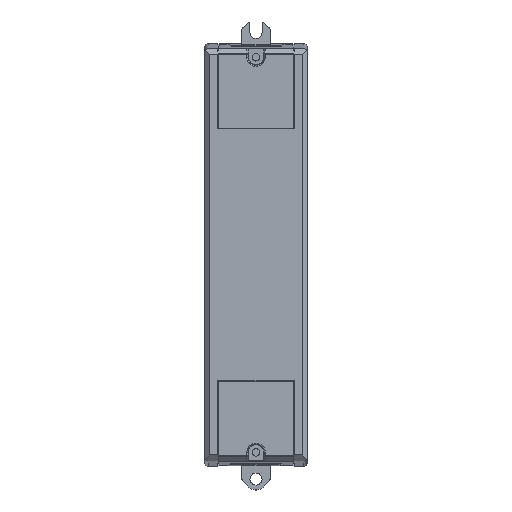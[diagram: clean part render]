
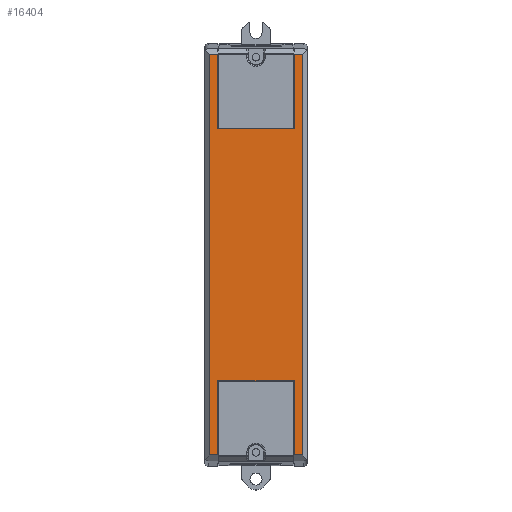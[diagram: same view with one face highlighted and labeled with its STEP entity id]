
A CAD part, top view. The second image highlights one B-rep face of the part: STEP entity #16404.
In plain terms, the highlighted planar face has unit normal (0, 0, 1).
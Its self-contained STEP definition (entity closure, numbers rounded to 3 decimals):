
#82 = LINE ( 'NONE', #22490, #13856 ) ;
#83 = EDGE_CURVE ( 'NONE', #10599, #24306, #17943, .T. ) ;
#417 = DIRECTION ( 'NONE',  ( 0., 1., 0. ) ) ;
#689 = EDGE_CURVE ( 'NONE', #12988, #10599, #23246, .T. ) ;
#895 = DIRECTION ( 'NONE',  ( 1., 0., 0. ) ) ;
#1009 = DIRECTION ( 'NONE',  ( -1., 0., 0. ) ) ;
#1263 = DIRECTION ( 'NONE',  ( 0., 1., 0. ) ) ;
#1378 = VECTOR ( 'NONE', #895, 1000. ) ;
#1482 = EDGE_CURVE ( 'NONE', #12988, #10505, #1963, .T. ) ;
#1534 = VECTOR ( 'NONE', #17731, 1000. ) ;
#1854 = VERTEX_POINT ( 'NONE', #22290 ) ;
#1963 = LINE ( 'NONE', #23390, #1378 ) ;
#2006 = ORIENTED_EDGE ( 'NONE', *, *, #19989, .T. ) ;
#2221 = EDGE_LOOP ( 'NONE', ( #16422, #18770, #14952, #7928, #18485, #10151, #2866, #2006, #8169, #11687, #5247, #14333 ) ) ;
#2290 = VERTEX_POINT ( 'NONE', #18468 ) ;
#2866 = ORIENTED_EDGE ( 'NONE', *, *, #83, .T. ) ;
#3378 = CARTESIAN_POINT ( 'NONE',  ( 7.732, -75.961, 76.867 ) ) ;
#3401 = DIRECTION ( 'NONE',  ( 0., -1., 0. ) ) ;
#3550 = CARTESIAN_POINT ( 'NONE',  ( 22.602, -125.211, 76.867 ) ) ;
#3710 = EDGE_CURVE ( 'NONE', #10505, #23001, #15038, .T. ) ;
#3861 = VECTOR ( 'NONE', #8498, 1000. ) ;
#4168 = CARTESIAN_POINT ( 'NONE',  ( 7.732, -203.482, 76.867 ) ) ;
#4606 = EDGE_CURVE ( 'NONE', #24246, #8405, #9796, .T. ) ;
#4840 = VECTOR ( 'NONE', #417, 1000. ) ;
#5247 = ORIENTED_EDGE ( 'NONE', *, *, #22212, .F. ) ;
#5325 = CARTESIAN_POINT ( 'NONE',  ( 40.672, -203.482, 76.867 ) ) ;
#5440 = DIRECTION ( 'NONE',  ( 1., 0., 0. ) ) ;
#5463 = CARTESIAN_POINT ( 'NONE',  ( 37.472, -75.961, 76.867 ) ) ;
#5831 = VECTOR ( 'NONE', #11947, 1000. ) ;
#6182 = EDGE_CURVE ( 'NONE', #2290, #23319, #8242, .T. ) ;
#6412 = CARTESIAN_POINT ( 'NONE',  ( 37.472, -203.482, 76.867 ) ) ;
#7085 = VERTEX_POINT ( 'NONE', #9946 ) ;
#7226 = DIRECTION ( 'NONE',  ( 0., -1., 0. ) ) ;
#7297 = DIRECTION ( 'NONE',  ( 0., -1., 0. ) ) ;
#7836 = FACE_OUTER_BOUND ( 'NONE', #2221, .T. ) ;
#7928 = ORIENTED_EDGE ( 'NONE', *, *, #3710, .F. ) ;
#8169 = ORIENTED_EDGE ( 'NONE', *, *, #6182, .F. ) ;
#8185 = CARTESIAN_POINT ( 'NONE',  ( 22.602, -174.461, 76.867 ) ) ;
#8242 = LINE ( 'NONE', #21626, #3861 ) ;
#8405 = VERTEX_POINT ( 'NONE', #8605 ) ;
#8498 = DIRECTION ( 'NONE',  ( 1., 0., 0. ) ) ;
#8605 = CARTESIAN_POINT ( 'NONE',  ( 7.732, -174.461, 76.867 ) ) ;
#9354 = VERTEX_POINT ( 'NONE', #6412 ) ;
#9796 = LINE ( 'NONE', #10573, #14175 ) ;
#9946 = CARTESIAN_POINT ( 'NONE',  ( 4.532, -203.482, 76.867 ) ) ;
#10151 = ORIENTED_EDGE ( 'NONE', *, *, #689, .T. ) ;
#10254 = EDGE_CURVE ( 'NONE', #8405, #1854, #10790, .T. ) ;
#10505 = VERTEX_POINT ( 'NONE', #10855 ) ;
#10573 = CARTESIAN_POINT ( 'NONE',  ( 7.732, -207.861, 76.867 ) ) ;
#10599 = VERTEX_POINT ( 'NONE', #5463 ) ;
#10790 = LINE ( 'NONE', #8185, #5831 ) ;
#10822 = PLANE ( 'NONE',  #16631 ) ;
#10855 = CARTESIAN_POINT ( 'NONE',  ( 40.672, -46.74, 76.867 ) ) ;
#11613 = CARTESIAN_POINT ( 'NONE',  ( 4.532, -125.211, 76.867 ) ) ;
#11687 = ORIENTED_EDGE ( 'NONE', *, *, #12901, .F. ) ;
#11947 = DIRECTION ( 'NONE',  ( 1., 0., 0. ) ) ;
#12901 = EDGE_CURVE ( 'NONE', #7085, #2290, #24244, .T. ) ;
#12988 = VERTEX_POINT ( 'NONE', #13747 ) ;
#13209 = VECTOR ( 'NONE', #7226, 1000. ) ;
#13747 = CARTESIAN_POINT ( 'NONE',  ( 37.472, -46.74, 76.867 ) ) ;
#13856 = VECTOR ( 'NONE', #24312, 1000. ) ;
#14017 = EDGE_CURVE ( 'NONE', #23001, #9354, #22084, .T. ) ;
#14061 = VECTOR ( 'NONE', #1009, 1000. ) ;
#14175 = VECTOR ( 'NONE', #1263, 1000. ) ;
#14333 = ORIENTED_EDGE ( 'NONE', *, *, #4606, .T. ) ;
#14450 = VECTOR ( 'NONE', #3401, 1000. ) ;
#14836 = VECTOR ( 'NONE', #7297, 1000. ) ;
#14952 = ORIENTED_EDGE ( 'NONE', *, *, #14017, .F. ) ;
#15038 = LINE ( 'NONE', #22110, #14450 ) ;
#15425 = LINE ( 'NONE', #24125, #14836 ) ;
#16404 = ADVANCED_FACE ( 'NONE', ( #7836 ), #10822, .T. ) ;
#16422 = ORIENTED_EDGE ( 'NONE', *, *, #10254, .T. ) ;
#16631 = AXIS2_PLACEMENT_3D ( 'NONE', #3550, #16642, #5440 ) ;
#16642 = DIRECTION ( 'NONE',  ( 0., 0., 1. ) ) ;
#17003 = EDGE_CURVE ( 'NONE', #1854, #9354, #15425, .T. ) ;
#17731 = DIRECTION ( 'NONE',  ( -1., 0., 0. ) ) ;
#17878 = LINE ( 'NONE', #23513, #14061 ) ;
#17943 = LINE ( 'NONE', #3378, #21782 ) ;
#18468 = CARTESIAN_POINT ( 'NONE',  ( 4.532, -46.74, 76.867 ) ) ;
#18485 = ORIENTED_EDGE ( 'NONE', *, *, #1482, .F. ) ;
#18770 = ORIENTED_EDGE ( 'NONE', *, *, #17003, .T. ) ;
#19989 = EDGE_CURVE ( 'NONE', #24306, #23319, #82, .T. ) ;
#20256 = DIRECTION ( 'NONE',  ( -1., 0., 0. ) ) ;
#21308 = CARTESIAN_POINT ( 'NONE',  ( 7.732, -75.961, 76.867 ) ) ;
#21626 = CARTESIAN_POINT ( 'NONE',  ( 2.102, -46.74, 76.867 ) ) ;
#21782 = VECTOR ( 'NONE', #20256, 1000. ) ;
#22084 = LINE ( 'NONE', #23439, #1534 ) ;
#22110 = CARTESIAN_POINT ( 'NONE',  ( 40.672, -125.211, 76.867 ) ) ;
#22212 = EDGE_CURVE ( 'NONE', #24246, #7085, #17878, .T. ) ;
#22290 = CARTESIAN_POINT ( 'NONE',  ( 37.472, -174.461, 76.867 ) ) ;
#22490 = CARTESIAN_POINT ( 'NONE',  ( 7.732, -42.561, 76.867 ) ) ;
#23001 = VERTEX_POINT ( 'NONE', #5325 ) ;
#23246 = LINE ( 'NONE', #24146, #13209 ) ;
#23319 = VERTEX_POINT ( 'NONE', #23336 ) ;
#23336 = CARTESIAN_POINT ( 'NONE',  ( 7.732, -46.74, 76.867 ) ) ;
#23390 = CARTESIAN_POINT ( 'NONE',  ( 2.102, -46.74, 76.867 ) ) ;
#23439 = CARTESIAN_POINT ( 'NONE',  ( 22.602, -203.482, 76.867 ) ) ;
#23513 = CARTESIAN_POINT ( 'NONE',  ( 22.602, -203.482, 76.867 ) ) ;
#24125 = CARTESIAN_POINT ( 'NONE',  ( 37.472, -207.861, 76.867 ) ) ;
#24146 = CARTESIAN_POINT ( 'NONE',  ( 37.472, -42.561, 76.867 ) ) ;
#24244 = LINE ( 'NONE', #11613, #4840 ) ;
#24246 = VERTEX_POINT ( 'NONE', #4168 ) ;
#24306 = VERTEX_POINT ( 'NONE', #21308 ) ;
#24312 = DIRECTION ( 'NONE',  ( 0., 1., 0. ) ) ;
